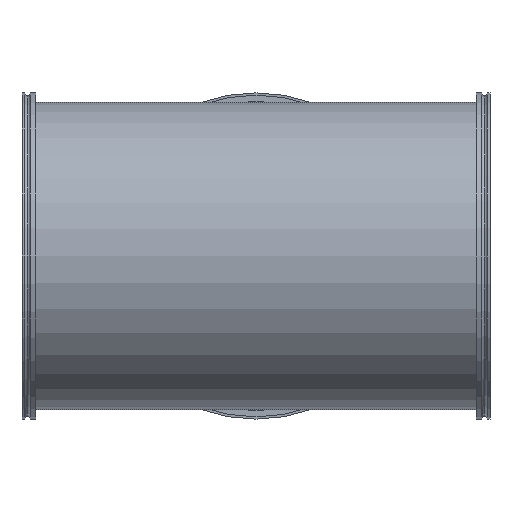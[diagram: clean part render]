
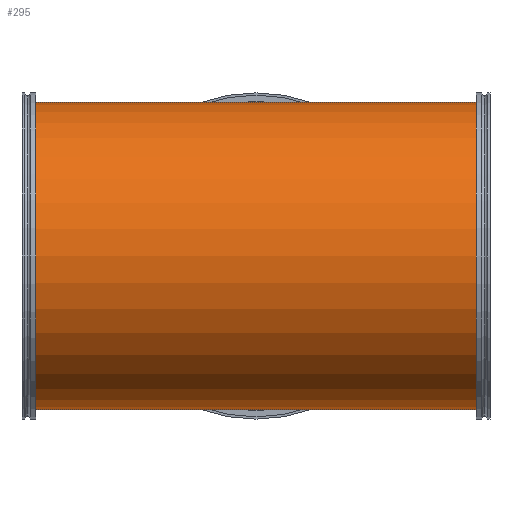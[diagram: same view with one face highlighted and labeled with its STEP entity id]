
A CAD part, left-side view. The second image highlights one B-rep face of the part: STEP entity #295.
In plain terms, the highlighted cylindrical face has radius 136.5 mm (diameter 273 mm), a partial arc.
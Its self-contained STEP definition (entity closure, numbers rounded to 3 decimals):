
#21 = CYLINDRICAL_SURFACE ( 'NONE', #557, 136.5 ) ;
#29 = VECTOR ( 'NONE', #1151, 1000. ) ;
#124 = CARTESIAN_POINT ( 'NONE',  ( 0., -0.002, 136.5 ) ) ;
#218 = VERTEX_POINT ( 'NONE', #2172 ) ;
#255 = DIRECTION ( 'NONE',  ( 0., 1., 0. ) ) ;
#295 = ADVANCED_FACE ( 'NONE', ( #1774 ), #21, .T. ) ;
#349 = LINE ( 'NONE', #397, #29 ) ;
#379 = EDGE_LOOP ( 'NONE', ( #2480, #1602, #1264, #2262, #502, #620 ) ) ;
#384 = VERTEX_POINT ( 'NONE', #1621 ) ;
#385 = VECTOR ( 'NONE', #948, 1000. ) ;
#397 = CARTESIAN_POINT ( 'NONE',  ( 0., -0.002, -136.5 ) ) ;
#402 = VERTEX_POINT ( 'NONE', #526 ) ;
#446 = EDGE_CURVE ( 'NONE', #1316, #218, #1885, .T. ) ;
#502 = ORIENTED_EDGE ( 'NONE', *, *, #1365, .T. ) ;
#526 = CARTESIAN_POINT ( 'NONE',  ( 0., 408., 136.5 ) ) ;
#557 = AXIS2_PLACEMENT_3D ( 'NONE', #1059, #255, #1823 ) ;
#620 = ORIENTED_EDGE ( 'NONE', *, *, #446, .F. ) ;
#649 = CARTESIAN_POINT ( 'NONE',  ( 0., 8., -136.5 ) ) ;
#677 = VERTEX_POINT ( 'NONE', #1139 ) ;
#693 = EDGE_CURVE ( 'NONE', #677, #838, #705, .T. ) ;
#705 = CIRCLE ( 'NONE', #999, 136.5 ) ;
#752 = CIRCLE ( 'NONE', #2399, 136.5 ) ;
#773 = CARTESIAN_POINT ( 'NONE',  ( 0., 8., 0. ) ) ;
#838 = VERTEX_POINT ( 'NONE', #649 ) ;
#911 = VECTOR ( 'NONE', #2041, 1000. ) ;
#939 = CARTESIAN_POINT ( 'NONE',  ( 0., 208., -136.5 ) ) ;
#948 = DIRECTION ( 'NONE',  ( 0., 1., 0. ) ) ;
#954 = DIRECTION ( 'NONE',  ( 0., -1., 0. ) ) ;
#964 = EDGE_CURVE ( 'NONE', #384, #402, #1093, .T. ) ;
#999 = AXIS2_PLACEMENT_3D ( 'NONE', #773, #954, #1529 ) ;
#1059 = CARTESIAN_POINT ( 'NONE',  ( 0., -0.002, 0. ) ) ;
#1093 = LINE ( 'NONE', #124, #911 ) ;
#1139 = CARTESIAN_POINT ( 'NONE',  ( 0., 8., 136.5 ) ) ;
#1147 = CARTESIAN_POINT ( 'NONE',  ( 0., -0.002, -136.5 ) ) ;
#1151 = DIRECTION ( 'NONE',  ( 0., 1., 0. ) ) ;
#1156 = CARTESIAN_POINT ( 'NONE',  ( 0., 408., 0. ) ) ;
#1264 = ORIENTED_EDGE ( 'NONE', *, *, #1486, .T. ) ;
#1316 = VERTEX_POINT ( 'NONE', #939 ) ;
#1365 = EDGE_CURVE ( 'NONE', #402, #218, #752, .T. ) ;
#1486 = EDGE_CURVE ( 'NONE', #677, #384, #2223, .T. ) ;
#1529 = DIRECTION ( 'NONE',  ( 0., 0., -1. ) ) ;
#1548 = DIRECTION ( 'NONE',  ( 0., 0., -1. ) ) ;
#1602 = ORIENTED_EDGE ( 'NONE', *, *, #693, .F. ) ;
#1621 = CARTESIAN_POINT ( 'NONE',  ( 0., 208., 136.5 ) ) ;
#1774 = FACE_OUTER_BOUND ( 'NONE', #379, .T. ) ;
#1823 = DIRECTION ( 'NONE',  ( 0., 0., 1. ) ) ;
#1831 = EDGE_CURVE ( 'NONE', #838, #1316, #349, .T. ) ;
#1884 = DIRECTION ( 'NONE',  ( 0., 1., 0. ) ) ;
#1885 = LINE ( 'NONE', #1147, #385 ) ;
#2041 = DIRECTION ( 'NONE',  ( 0., 1., 0. ) ) ;
#2111 = VECTOR ( 'NONE', #1884, 1000. ) ;
#2172 = CARTESIAN_POINT ( 'NONE',  ( 0., 408., -136.5 ) ) ;
#2223 = LINE ( 'NONE', #2482, #2111 ) ;
#2262 = ORIENTED_EDGE ( 'NONE', *, *, #964, .T. ) ;
#2399 = AXIS2_PLACEMENT_3D ( 'NONE', #1156, #2487, #1548 ) ;
#2480 = ORIENTED_EDGE ( 'NONE', *, *, #1831, .F. ) ;
#2482 = CARTESIAN_POINT ( 'NONE',  ( 0., -0.002, 136.5 ) ) ;
#2487 = DIRECTION ( 'NONE',  ( 0., -1., 0. ) ) ;
